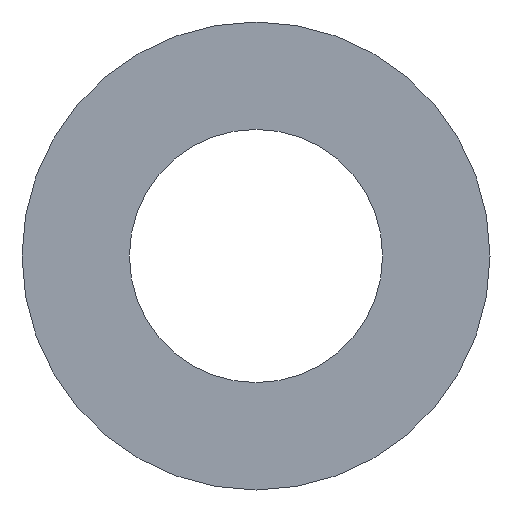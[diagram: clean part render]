
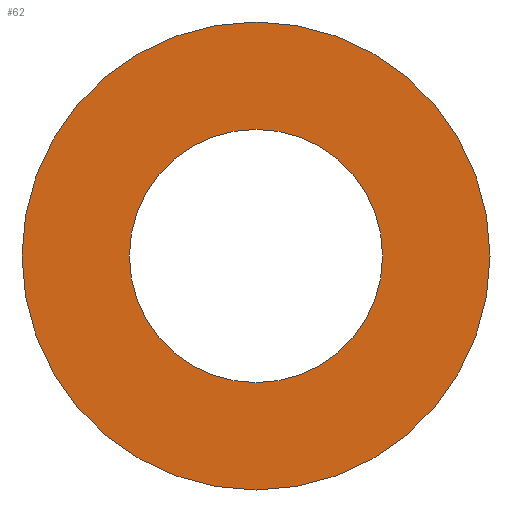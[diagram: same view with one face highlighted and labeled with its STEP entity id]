
A CAD part, front view. The second image highlights one B-rep face of the part: STEP entity #62.
In plain terms, the highlighted planar face has unit normal (0, -1, 0).
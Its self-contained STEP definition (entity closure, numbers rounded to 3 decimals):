
#20=PLANE('',#83);
#26=ORIENTED_EDGE('',*,*,#30,.T.);
#27=ORIENTED_EDGE('',*,*,#32,.F.);
#30=EDGE_CURVE('',#34,#34,#38,.T.);
#32=EDGE_CURVE('',#36,#36,#40,.T.);
#34=VERTEX_POINT('',#106);
#36=VERTEX_POINT('',#111);
#38=CIRCLE('',#78,92.);
#40=CIRCLE('',#81,170.);
#46=EDGE_LOOP('',(#26));
#47=EDGE_LOOP('',(#27));
#54=FACE_BOUND('',#46,.T.);
#55=FACE_BOUND('',#47,.T.);
#62=ADVANCED_FACE('',(#54,#55),#20,.F.);
#78=AXIS2_PLACEMENT_3D('',#105,#89,#90);
#81=AXIS2_PLACEMENT_3D('',#110,#95,#96);
#83=AXIS2_PLACEMENT_3D('',#114,#99,#100);
#89=DIRECTION('',(0.,1.,0.));
#90=DIRECTION('',(1.,0.,0.));
#95=DIRECTION('',(0.,1.,0.));
#96=DIRECTION('',(1.,0.,0.));
#99=DIRECTION('',(0.,1.,0.));
#100=DIRECTION('',(0.,0.,1.));
#105=CARTESIAN_POINT('',(0.,-1.5,0.));
#106=CARTESIAN_POINT('',(92.,-1.5,0.));
#110=CARTESIAN_POINT('',(0.,-1.5,0.));
#111=CARTESIAN_POINT('',(170.,-1.5,0.));
#114=CARTESIAN_POINT('',(0.,-1.5,0.));
